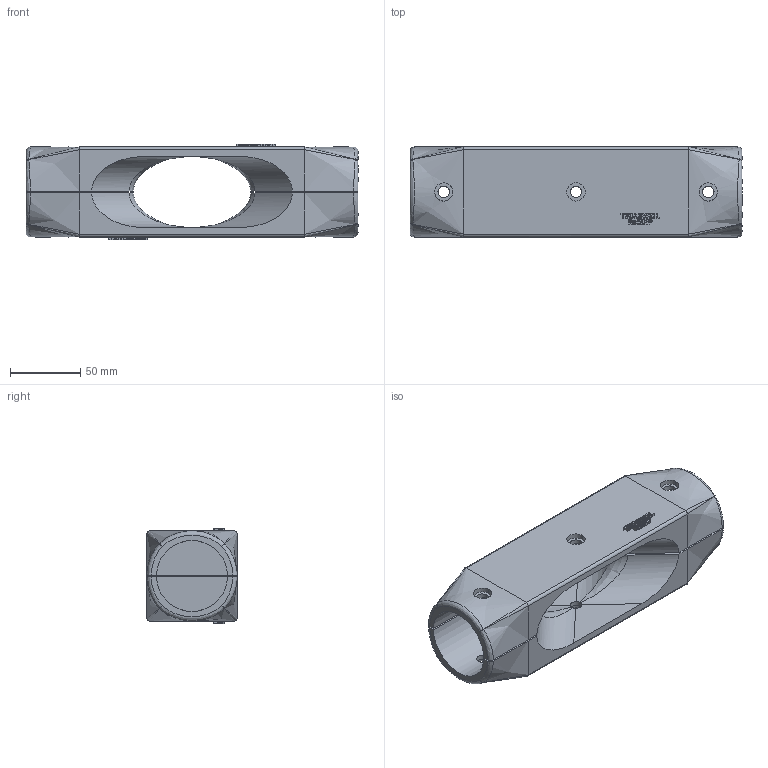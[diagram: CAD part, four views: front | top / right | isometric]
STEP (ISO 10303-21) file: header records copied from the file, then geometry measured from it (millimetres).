
FILE_DESCRIPTION (( 'STEP AP203' ), '1' );
FILE_NAME ('RAILEX STANDARD RXR-AXCJ.STEP', '2021-06-17T10:39:43', ( '' ), ( '' ), 'SwSTEP 2.0', 'SolidWorks 2020', '' );
FILE_SCHEMA (( 'CONFIG_CONTROL_DESIGN' ));
Length unit declared in the file: millimetre
Products named in the file (1): RAILEX STANDARD RXR-AXCJ
Bounding box: 236 x 64 x 68 mm (x, y, z)
Volume: 425017.4 mm3; surface area: 92745.9 mm2
Topology: 2 solids, 2 shells, 622 faces, 1678 edges, 1104 vertices
Faces by surface type: plane 366, bspline 206, cylinder 50
Entity records: 32125 total; most frequent: CARTESIAN_POINT 17989, ORIENTED_EDGE 3340, DIRECTION 2080, EDGE_CURVE 1670, LINE 1126, VECTOR 1126, VERTEX_POINT 1104, EDGE_LOOP 686
